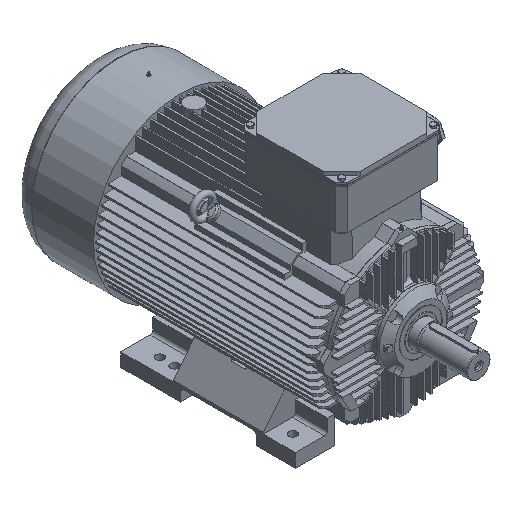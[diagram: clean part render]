
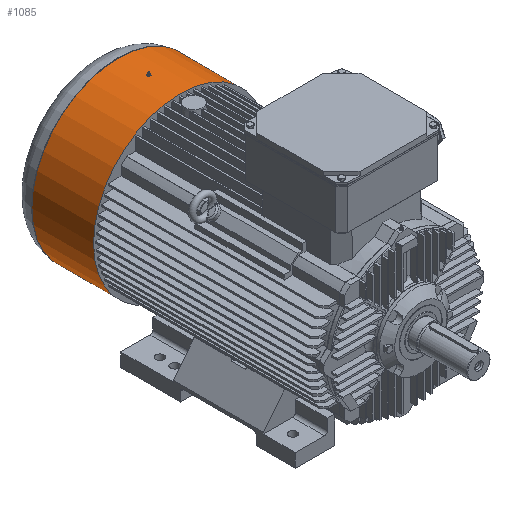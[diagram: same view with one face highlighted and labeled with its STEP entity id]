
A CAD part, isometric view. The second image highlights one B-rep face of the part: STEP entity #1085.
In plain terms, the highlighted cylindrical face has radius 298 mm (diameter 596 mm), a full revolution.
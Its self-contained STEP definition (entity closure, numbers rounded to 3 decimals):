
#1085 = ADVANCED_FACE( '', ( #3384, #3385 ), #3386, .T. );
#3384 = FACE_OUTER_BOUND( '', #6722, .T. );
#3385 = FACE_OUTER_BOUND( '', #6723, .T. );
#3386 = CYLINDRICAL_SURFACE( '', #6724, 298. );
#6722 = EDGE_LOOP( '', ( #18276 ) );
#6723 = EDGE_LOOP( '', ( #18277 ) );
#6724 = AXIS2_PLACEMENT_3D( '', #18278, #18279, #18280 );
#18276 = ORIENTED_EDGE( '', *, *, #25925, .T. );
#18277 = ORIENTED_EDGE( '', *, *, #25705, .F. );
#18278 = CARTESIAN_POINT( '', ( 0., 752.12, 0. ) );
#18279 = DIRECTION( '', ( 0., 1., 0. ) );
#18280 = DIRECTION( '', ( 0., 0., 1. ) );
#25705 = EDGE_CURVE( '', #31567, #31567, #31568, .T. );
#25925 = EDGE_CURVE( '', #31924, #31924, #31925, .T. );
#31567 = VERTEX_POINT( '', #40449 );
#31568 = CIRCLE( '', #40450, 298. );
#31924 = VERTEX_POINT( '', #40993 );
#31925 = CIRCLE( '', #40994, 298. );
#40449 = CARTESIAN_POINT( '', ( 0., 752.12, 298. ) );
#40450 = AXIS2_PLACEMENT_3D( '', #52196, #52197, #52198 );
#40993 = CARTESIAN_POINT( '', ( 0., 965.12, 298. ) );
#40994 = AXIS2_PLACEMENT_3D( '', #52482, #52483, #52484 );
#52196 = CARTESIAN_POINT( '', ( 0., 752.12, 0. ) );
#52197 = DIRECTION( '', ( 0., -1., 0. ) );
#52198 = DIRECTION( '', ( 0., 0., 1. ) );
#52482 = CARTESIAN_POINT( '', ( 0., 965.12, 0. ) );
#52483 = DIRECTION( '', ( 0., -1., 0. ) );
#52484 = DIRECTION( '', ( 0., 0., 1. ) );
